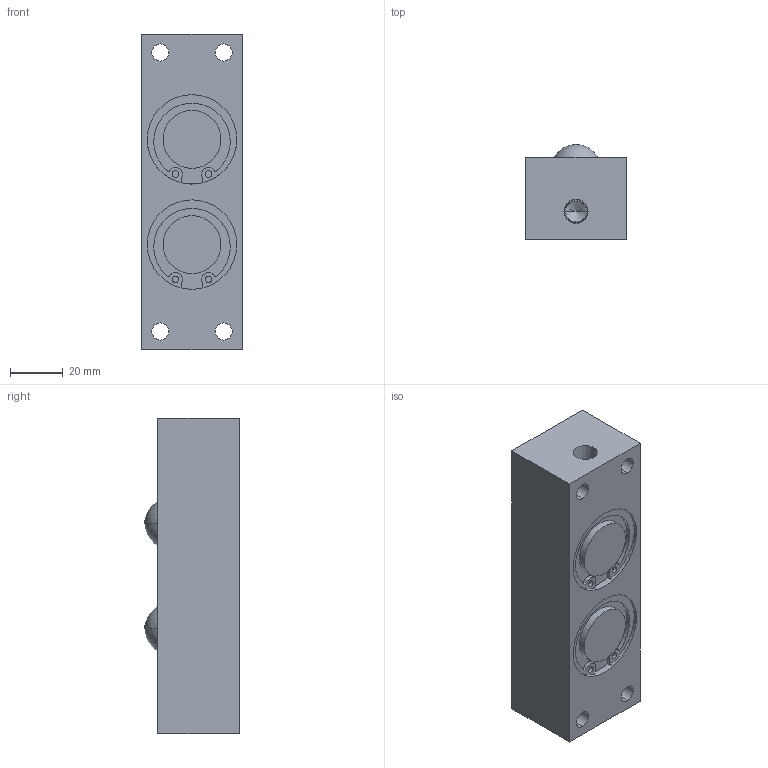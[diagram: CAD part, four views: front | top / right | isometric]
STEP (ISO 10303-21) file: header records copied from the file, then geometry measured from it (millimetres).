
FILE_DESCRIPTION (( 'STEP AP203' ), '1' );
FILE_NAME ('PVL30S-2.STEP', '2016-01-05T04:51:14', ( '' ), ( '' ), 'SwSTEP 2.0', 'SolidWorks 2013', '' );
FILE_SCHEMA (( 'CONFIG_CONTROL_DESIGN' ));
Length unit declared in the file: millimetre
Products named in the file (1): PVL30S-2
Bounding box: 38 x 36 x 120 mm (x, y, z)
Volume: 134094.5 mm3; surface area: 24869.1 mm2
Topology: 1 solids, 1 shells, 95 faces, 222 edges, 147 vertices
Faces by surface type: cylinder 58, plane 29, sphere 4, cone 4
Entity records: 2867 total; most frequent: DIRECTION 544, CARTESIAN_POINT 463, ORIENTED_EDGE 440, AXIS2_PLACEMENT_3D 228, EDGE_CURVE 220, VERTEX_POINT 147, CIRCLE 132, EDGE_LOOP 123
